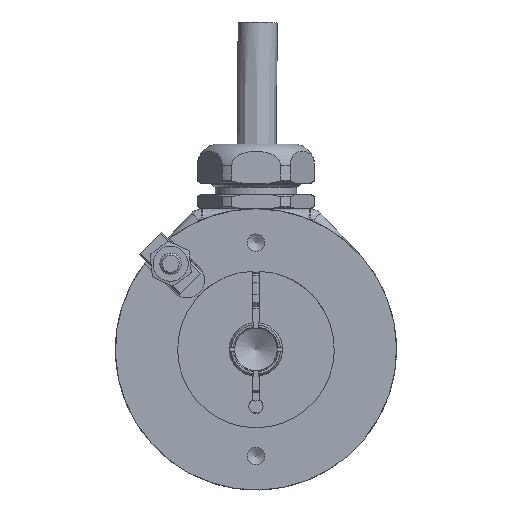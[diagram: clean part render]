
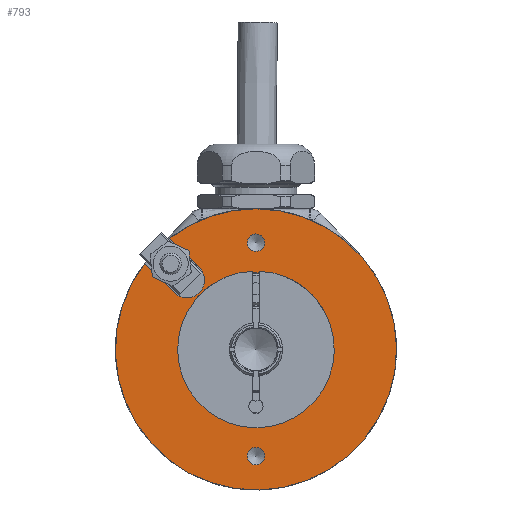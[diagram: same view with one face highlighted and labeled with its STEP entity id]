
A CAD part, left-side view. The second image highlights one B-rep face of the part: STEP entity #793.
In plain terms, the highlighted planar face has unit normal (-1, 0, 0).
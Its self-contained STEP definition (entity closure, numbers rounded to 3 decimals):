
#793 = ADVANCED_FACE( '', ( #1880, #1881, #1882, #1883 ), #1884, .T. );
#1880 = FACE_OUTER_BOUND( '', #3639, .T. );
#1881 = FACE_BOUND( '', #3640, .T. );
#1882 = FACE_BOUND( '', #3641, .T. );
#1883 = FACE_BOUND( '', #3642, .T. );
#1884 = PLANE( '', #3643 );
#3639 = EDGE_LOOP( '', ( #5948, #5949, #5950, #5951 ) );
#3640 = EDGE_LOOP( '', ( #5952 ) );
#3641 = EDGE_LOOP( '', ( #5953 ) );
#3642 = EDGE_LOOP( '', ( #5954 ) );
#3643 = AXIS2_PLACEMENT_3D( '', #5955, #5956, #5957 );
#5948 = ORIENTED_EDGE( '', *, *, #8546, .F. );
#5949 = ORIENTED_EDGE( '', *, *, #8629, .F. );
#5950 = ORIENTED_EDGE( '', *, *, #8246, .F. );
#5951 = ORIENTED_EDGE( '', *, *, #8630, .T. );
#5952 = ORIENTED_EDGE( '', *, *, #8631, .T. );
#5953 = ORIENTED_EDGE( '', *, *, #8632, .T. );
#5954 = ORIENTED_EDGE( '', *, *, #8633, .F. );
#5955 = CARTESIAN_POINT( '', ( 0., 0., 10.539 ) );
#5956 = DIRECTION( '', ( -1., 0., 0. ) );
#5957 = DIRECTION( '', ( 0., 0., 1. ) );
#8246 = EDGE_CURVE( '', #9523, #9525, #9526, .T. );
#8546 = EDGE_CURVE( '', #9999, #9994, #10001, .T. );
#8629 = EDGE_CURVE( '', #9525, #9999, #10128, .T. );
#8630 = EDGE_CURVE( '', #9523, #9994, #10129, .T. );
#8631 = EDGE_CURVE( '', #10130, #10130, #10131, .T. );
#8632 = EDGE_CURVE( '', #10132, #10132, #10133, .T. );
#8633 = EDGE_CURVE( '', #10134, #10134, #10135, .T. );
#9523 = VERTEX_POINT( '', #11347 );
#9525 = VERTEX_POINT( '', #11350 );
#9526 = LINE( '', #11351, #11352 );
#9994 = VERTEX_POINT( '', #12196 );
#9999 = VERTEX_POINT( '', #12203 );
#10001 = LINE( '', #12206, #12207 );
#10128 = CIRCLE( '', #12380, 2.5 );
#10129 = CIRCLE( '', #12381, 19.75 );
#10130 = VERTEX_POINT( '', #12382 );
#10131 = CIRCLE( '', #12383, 1.23 );
#10132 = VERTEX_POINT( '', #12384 );
#10133 = CIRCLE( '', #12385, 1.23 );
#10134 = VERTEX_POINT( '', #12386 );
#10135 = CIRCLE( '', #12387, 10.789 );
#11347 = CARTESIAN_POINT( '', ( 0., 15.621, 11.835 ) );
#11350 = CARTESIAN_POINT( '', ( 0., 11.49, 7.705 ) );
#11351 = CARTESIAN_POINT( '', ( 0., 11.49, 7.705 ) );
#11352 = VECTOR( '', #14235, 1000. );
#12196 = CARTESIAN_POINT( '', ( 0., 12.085, 15.371 ) );
#12203 = CARTESIAN_POINT( '', ( 0., 7.955, 11.24 ) );
#12206 = CARTESIAN_POINT( '', ( 0., 7.955, 11.24 ) );
#12207 = VECTOR( '', #14628, 1000. );
#12380 = AXIS2_PLACEMENT_3D( '', #14738, #14739, #14740 );
#12381 = AXIS2_PLACEMENT_3D( '', #14741, #14742, #14743 );
#12382 = CARTESIAN_POINT( '', ( 0., 0., -14.021 ) );
#12383 = AXIS2_PLACEMENT_3D( '', #14744, #14745, #14746 );
#12384 = CARTESIAN_POINT( '', ( 0., 0., 15.98 ) );
#12385 = AXIS2_PLACEMENT_3D( '', #14747, #14748, #14749 );
#12386 = CARTESIAN_POINT( '', ( 0., 0., 10.539 ) );
#12387 = AXIS2_PLACEMENT_3D( '', #14750, #14751, #14752 );
#14235 = DIRECTION( '', ( 0., -0.707, -0.707 ) );
#14628 = DIRECTION( '', ( 0., 0.707, 0.707 ) );
#14738 = CARTESIAN_POINT( '', ( 0., 9.723, 9.473 ) );
#14739 = DIRECTION( '', ( -1., 0., 0. ) );
#14740 = DIRECTION( '', ( 0., 0., 1. ) );
#14741 = CARTESIAN_POINT( '', ( 0., 0., -0.25 ) );
#14742 = DIRECTION( '', ( -1., 0., 0. ) );
#14743 = DIRECTION( '', ( 0., 0., 1. ) );
#14744 = CARTESIAN_POINT( '', ( 0., 0., -15.25 ) );
#14745 = DIRECTION( '', ( 1., 0., 0. ) );
#14746 = DIRECTION( '', ( 0., 0., 1. ) );
#14747 = CARTESIAN_POINT( '', ( 0., 0., 14.75 ) );
#14748 = DIRECTION( '', ( 1., 0., 0. ) );
#14749 = DIRECTION( '', ( 0., 0., 1. ) );
#14750 = CARTESIAN_POINT( '', ( 0., 0., -0.25 ) );
#14751 = DIRECTION( '', ( -1., 0., 0. ) );
#14752 = DIRECTION( '', ( 0., 0., 1. ) );
